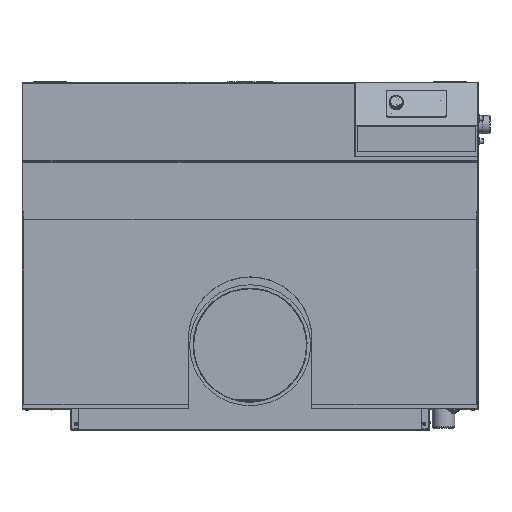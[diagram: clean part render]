
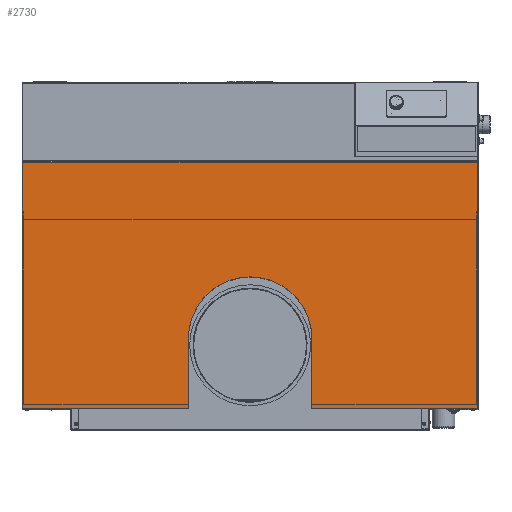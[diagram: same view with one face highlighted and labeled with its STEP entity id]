
A CAD part, top view. The second image highlights one B-rep face of the part: STEP entity #2730.
In plain terms, the highlighted planar face has unit normal (0, 0, 1).
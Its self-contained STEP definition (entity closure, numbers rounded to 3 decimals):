
#2730=ADVANCED_FACE('',(#27835),#27837,.T.);
#27835=FACE_BOUND('',#27836,.T.);
#27836=EDGE_LOOP('',(#76125,#76126,#76127,#76128,#76129,#76130,#76131,#76132));
#27837=PLANE('',#27838);
#27838=AXIS2_PLACEMENT_3D('',#27839,#27840,#27841);
#27839=CARTESIAN_POINT('',(0.,-43.5,870.5));
#27840=DIRECTION('',(0.,0.,1.));
#27841=DIRECTION('',(1.,0.,0.));
#76125=ORIENTED_EDGE('',*,*,#99680,.T.);
#76126=ORIENTED_EDGE('',*,*,#99681,.T.);
#76127=ORIENTED_EDGE('',*,*,#99682,.T.);
#76128=ORIENTED_EDGE('',*,*,#99683,.T.);
#76129=ORIENTED_EDGE('',*,*,#98804,.T.);
#76130=ORIENTED_EDGE('',*,*,#98825,.T.);
#76131=ORIENTED_EDGE('',*,*,#99684,.T.);
#76132=ORIENTED_EDGE('',*,*,#99685,.T.);
#98804=EDGE_CURVE('',#117591,#117593,#117595,.T.);
#98825=EDGE_CURVE('',#117593,#117624,#117626,.T.);
#99680=EDGE_CURVE('',#119083,#119084,#119085,.F.);
#99681=EDGE_CURVE('',#119084,#119086,#119087,.F.);
#99682=EDGE_CURVE('',#119086,#117940,#119088,.F.);
#99683=EDGE_CURVE('',#117940,#117591,#119089,.T.);
#99684=EDGE_CURVE('',#117624,#119090,#119091,.T.);
#99685=EDGE_CURVE('',#119090,#119083,#119092,.T.);
#117591=VERTEX_POINT('',#160524);
#117593=VERTEX_POINT('',#160546);
#117595=LINE('',#160551,#160552);
#117624=VERTEX_POINT('',#160660);
#117626=LINE('',#160678,#160679);
#117940=VERTEX_POINT('',#162038);
#119083=VERTEX_POINT('',#165801);
#119084=VERTEX_POINT('',#165802);
#119085=LINE('',#165803,#165804);
#119086=VERTEX_POINT('',#165806);
#119087=CIRCLE('',#165807,162.5);
#119088=LINE('',#165811,#165812);
#119089=LINE('',#165814,#165815);
#119090=VERTEX_POINT('',#165817);
#119091=LINE('',#165818,#165819);
#119092=LINE('',#165821,#165822);
#160524=CARTESIAN_POINT('',(598.,-367.,870.5));
#160546=CARTESIAN_POINT('',(598.,280.,870.5));
#160551=CARTESIAN_POINT('',(598.,-367.,870.5));
#160552=VECTOR('',#160553,1.);
#160553=DIRECTION('',(0.,1.,0.));
#160660=CARTESIAN_POINT('',(-598.,280.,870.5));
#160678=CARTESIAN_POINT('',(598.,280.,870.5));
#160679=VECTOR('',#160680,1.);
#160680=DIRECTION('',(-1.,0.,0.));
#162038=CARTESIAN_POINT('',(162.5,-367.,870.5));
#165801=CARTESIAN_POINT('',(-162.5,-367.,870.5));
#165802=CARTESIAN_POINT('',(-162.5,-185.,870.5));
#165803=CARTESIAN_POINT('',(-162.5,-185.,870.5));
#165804=VECTOR('',#165805,1.);
#165805=DIRECTION('',(0.,-1.,0.));
#165806=CARTESIAN_POINT('',(162.5,-185.,870.5));
#165807=AXIS2_PLACEMENT_3D('',#165808,#165809,#165810);
#165808=CARTESIAN_POINT('',(0.,-185.,870.5));
#165809=DIRECTION('',(0.,0.,1.));
#165810=DIRECTION('',(1.,0.,0.));
#165811=CARTESIAN_POINT('',(162.5,-367.,870.5));
#165812=VECTOR('',#165813,1.);
#165813=DIRECTION('',(0.,1.,0.));
#165814=CARTESIAN_POINT('',(162.5,-367.,870.5));
#165815=VECTOR('',#165816,1.);
#165816=DIRECTION('',(1.,0.,0.));
#165817=CARTESIAN_POINT('',(-598.,-367.,870.5));
#165818=CARTESIAN_POINT('',(-598.,280.,870.5));
#165819=VECTOR('',#165820,1.);
#165820=DIRECTION('',(0.,-1.,0.));
#165821=CARTESIAN_POINT('',(-598.,-367.,870.5));
#165822=VECTOR('',#165823,1.);
#165823=DIRECTION('',(1.,0.,0.));
